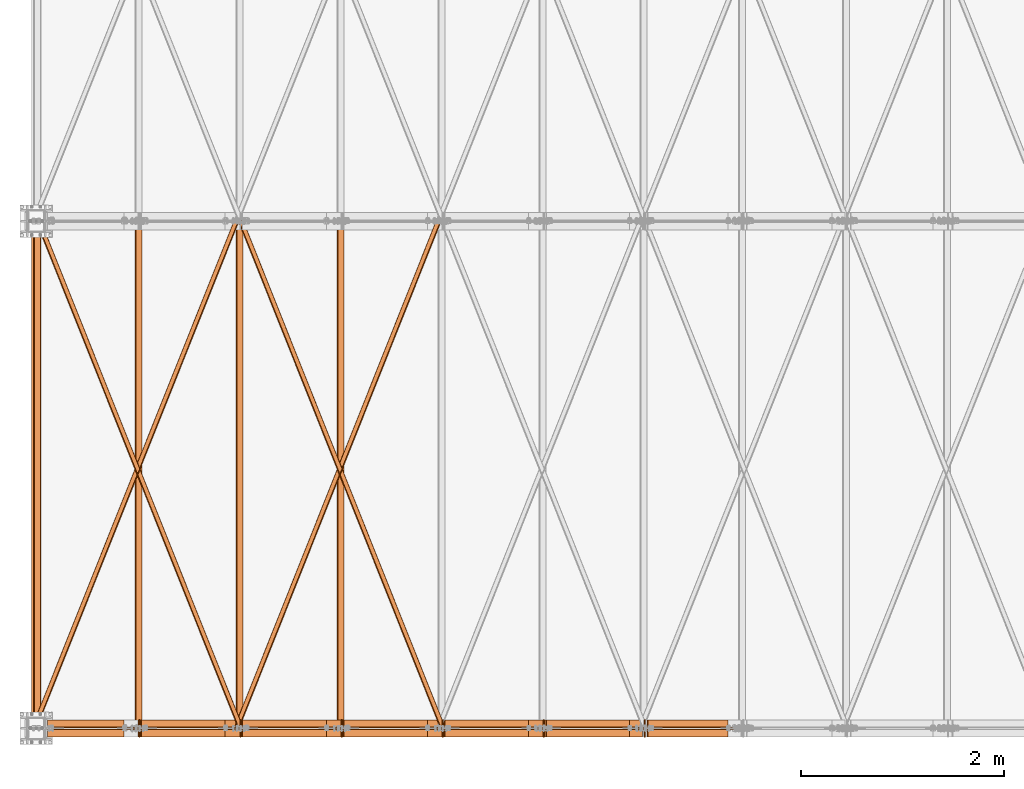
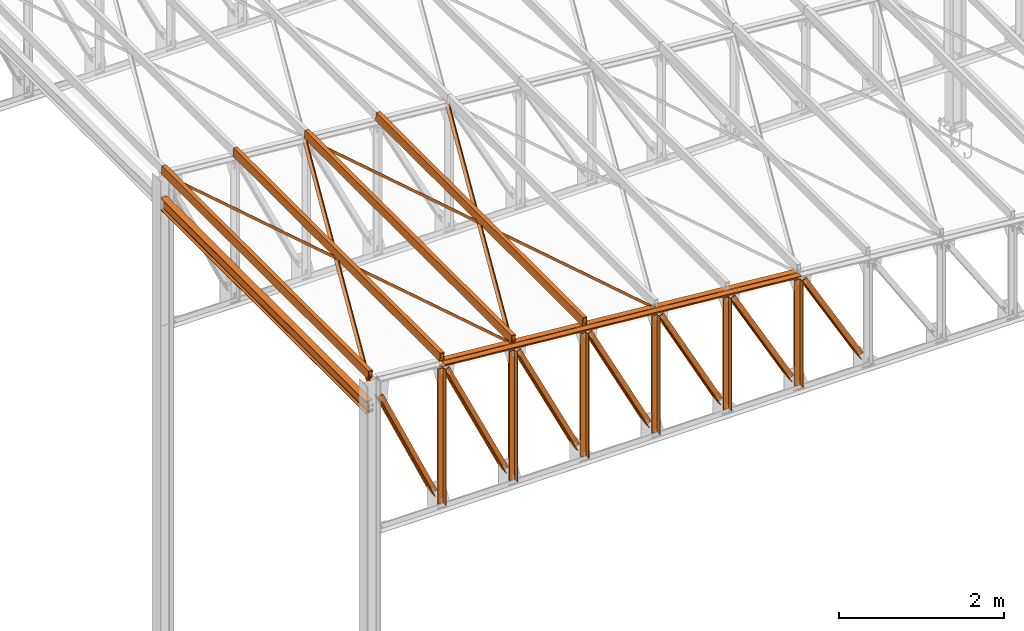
# One storey, part 230 of 251: 37 proxies.
"""IFC4 building model written with IfcOpenShell, lengths in metres."""

from ifc_helpers import new_model, si_unit, frame, frame_2d, origin_with_axes, origin_2d_with_axis, place, context, project, spatial, polyline, hollow_rectangle, i_section, l_section, outline, extrude, clip, halfspace, material, material_profile, profile_set, profile_usage, type_object, element, save


model = new_model("IFC4")

# Units and contexts
model_context = context("Model", 3, precision=1e-05, world=origin_with_axes())
ifc_project = project(units=[si_unit("LENGTHUNIT", "METRE"), si_unit("AREAUNIT", "SQUARE_METRE"), si_unit("VOLUMEUNIT", "CUBIC_METRE"), si_unit("MASSUNIT", "GRAM", prefix="KILO"), si_unit("TIMEUNIT", "SECOND"), si_unit("PLANEANGLEUNIT", "RADIAN"), si_unit("SOLIDANGLEUNIT", "STERADIAN"), si_unit("THERMODYNAMICTEMPERATUREUNIT", "DEGREE_CELSIUS")], contexts=[model_context])

# Site, building, storey
placement_1 = place(None, origin_with_axes())
site = spatial("IfcSite", under=ifc_project, at=placement_1, Name="Italia", CompositionType="ELEMENT")
building = spatial("IfcBuilding", under=site, at=placement_1, Name="Deposito", CompositionType="ELEMENT")
storey = spatial("IfcBuildingStorey", under=building, at=placement_1, Name="Storey 0", CompositionType="ELEMENT", Elevation=0.0)

# Proxies
ifc_material = material(Name="Acciaio", Category="Acciaio")
ifc_material_profile = material_profile(ifc_material, i_section(OverallWidth=0.2, OverallDepth=0.19, WebThickness=0.006, FlangeThickness=0.01, FilletRadius=0.018, at=origin_2d_with_axis()), Name="7 PILASTRO HEA200")
ifc_profile_set = profile_set([ifc_material_profile])
ifc_profile_usage_1 = profile_usage(ifc_profile_set, cardinal=1)
member_type_1 = type_object("IfcMemberType", Name="5 2L80x8", PredefinedType="MEMBER", material=ifc_profile_usage_1)
placement_2 = place(placement_1, origin_with_axes())
proxy_1_placement = place(placement_2, origin_with_axes())
element("IfcBuildingElementProxy", 1, at=proxy_1_placement, inside=storey, type_object=member_type_1, Name="170001", context=model_context, shape_type="SweptSolid", body=[
    extrude(outline(polyline([(0.0, 0.0), (-0.08, 0.0), (-0.08, 0.00800037), (-0.008, 0.00800037), (-0.008, 0.0799999), (0.0, 0.0799999), (0.0, 0.0)])), frame((12.0716, -0.005, 6.57981), z_axis=(0.496024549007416, 0.0, -0.868308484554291), x_axis=(0.0, 1.0, 0.0)), (0.0, 0.0, 1.0), 1.5955),
])
ifc_profile_usage_2 = profile_usage(ifc_profile_set, cardinal=1)
member_type_2 = type_object("IfcMemberType", Name="5 2L80x8", PredefinedType="MEMBER", material=ifc_profile_usage_2)
proxy_2_placement = place(placement_2, origin_with_axes())
element("IfcBuildingElementProxy", 2, at=proxy_2_placement, inside=storey, type_object=member_type_2, Name="170001", context=model_context, shape_type="SweptSolid", body=[
    extrude(outline(polyline([(0.0, 0.0), (0.008, 0.0), (0.008, -0.0719986), (0.08, -0.0719986), (0.08, -0.079999), (0.0, -0.079999), (0.0, 0.0)])), frame((12.1411, 0.005, 6.6195), z_axis=(0.496024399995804, 0.0, -0.868308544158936), x_axis=(0.0, 1.0, 0.0)), (0.0, 0.0, 1.0), 1.59551),
])
ifc_profile_usage_3 = profile_usage(ifc_profile_set, cardinal=2)
member_type_3 = type_object("IfcMemberType", Name="5 2L80x8", PredefinedType="MEMBER", material=ifc_profile_usage_3)
proxy_3_placement = place(placement_2, origin_with_axes())
element("IfcBuildingElementProxy", 3, at=proxy_3_placement, inside=storey, type_object=member_type_3, Name="230071", context=model_context, shape_type="SweptSolid", body=[
    extrude(outline(polyline([(0.0, 0.0), (0.08, 0.0), (0.08, -0.00800085), (0.008, -0.00800085), (0.00800001, -0.0799999), (0.0, -0.0799999), (0.0, 0.0)])), frame((7.05143, 0.005, 7.15546), z_axis=(0.996194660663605, 0.0, -0.087155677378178), x_axis=(0.0, 1.0, 0.0)), (0.0, 0.0, 1.0), 4.99498),
])
ifc_profile_usage_4 = profile_usage(ifc_profile_set, cardinal=2)
member_type_4 = type_object("IfcMemberType", Name="5 2L80x8", PredefinedType="MEMBER", material=ifc_profile_usage_4)
proxy_4_placement = place(placement_2, origin_with_axes())
element("IfcBuildingElementProxy", 4, at=proxy_4_placement, inside=storey, type_object=member_type_4, Name="230071", context=model_context, shape_type="SweptSolid", body=[
    extrude(outline(polyline([(0.0, 0.0), (-0.008, 0.0), (-0.00800001, 0.0719991), (-0.08, 0.0719991), (-0.08, 0.0799994), (0.0, 0.0799994), (0.0, 0.0)])), frame((7.04446, -0.00499999, 7.07576), z_axis=(0.99619472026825, 0.0, -0.087155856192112), x_axis=(0.0, 1.0, 0.0)), (0.0, 0.0, 1.0), 4.99498),
])
ifc_profile_usage_5 = profile_usage(ifc_profile_set, cardinal=1)
member_type_5 = type_object("IfcMemberType", Name="5 2L80x8", PredefinedType="MEMBER", material=ifc_profile_usage_5)
proxy_5_placement = place(placement_2, origin_with_axes())
element("IfcBuildingElementProxy", 5, at=proxy_5_placement, inside=storey, type_object=member_type_5, Name="6", context=model_context, shape_type="SweptSolid", body=[
    extrude(outline(polyline([(0.0, 0.0), (-0.08, 0.0), (-0.08, 0.00800037), (-0.008, 0.00800037), (-0.008, 0.0799999), (0.0, 0.0799999), (0.0, 0.0)])), frame((12.053, -0.005, 5.06753), z_axis=(0.0, 0.0, 1.0), x_axis=(0.0, 1.0, 0.0)), (0.0, 0.0, 1.0), 1.55988),
])
ifc_profile_usage_6 = profile_usage(ifc_profile_set, cardinal=1)
member_type_6 = type_object("IfcMemberType", Name="5 2L80x8", PredefinedType="MEMBER", material=ifc_profile_usage_6)
proxy_6_placement = place(placement_2, origin_with_axes())
element("IfcBuildingElementProxy", 6, at=proxy_6_placement, inside=storey, type_object=member_type_6, Name="6", context=model_context, shape_type="SweptSolid", body=[
    extrude(outline(polyline([(0.0, 0.0), (0.008, 0.0), (0.008, -0.0719995), (0.08, -0.0719995), (0.08, -0.0799999), (0.0, -0.0799999), (0.0, 0.0)])), frame((11.973, 0.005, 5.06753), z_axis=(0.0, 0.0, 1.0), x_axis=(0.0, 1.0, 0.0)), (0.0, 0.0, 1.0), 1.55988),
])
ifc_profile_usage_7 = profile_usage(ifc_profile_set, cardinal=1)
member_type_7 = type_object("IfcMemberType", Name="5 2L80x8", PredefinedType="MEMBER", material=ifc_profile_usage_7)
proxy_7_placement = place(placement_2, origin_with_axes())
element("IfcBuildingElementProxy", 7, at=proxy_7_placement, inside=storey, type_object=member_type_7, Name="180001", context=model_context, shape_type="SweptSolid", body=[
    extrude(outline(polyline([(0.0, 0.0), (-0.08, 0.0), (-0.08, 0.00799942), (-0.008, 0.00799942), (-0.008, 0.0799999), (0.0, 0.0799999), (0.0, 0.0)])), frame((11.0734, -0.005, 6.66808), z_axis=(0.487459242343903, 0.0, -0.873145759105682), x_axis=(0.0, 1.0, 0.0)), (0.0, 0.0, 1.0), 1.68149),
])
ifc_profile_usage_8 = profile_usage(ifc_profile_set, cardinal=1)
member_type_8 = type_object("IfcMemberType", Name="5 2L80x8", PredefinedType="MEMBER", material=ifc_profile_usage_8)
proxy_8_placement = place(placement_2, origin_with_axes())
element("IfcBuildingElementProxy", 8, at=proxy_8_placement, inside=storey, type_object=member_type_8, Name="180001", context=model_context, shape_type="SweptSolid", body=[
    extrude(outline(polyline([(0.0, 0.0), (0.008, 0.0), (0.008, -0.0719986), (0.08, -0.0719986), (0.08, -0.079998), (0.0, -0.079998), (0.0, 0.0)])), frame((11.1433, 0.005, 6.70707), z_axis=(0.487459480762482, 0.0, -0.873145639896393), x_axis=(0.0, 1.0, 0.0)), (0.0, 0.0, 1.0), 1.68149),
])
ifc_profile_usage_9 = profile_usage(ifc_profile_set, cardinal=1)
member_type_9 = type_object("IfcMemberType", Name="5 2L80x8", PredefinedType="MEMBER", material=ifc_profile_usage_9)
proxy_9_placement = place(placement_2, origin_with_axes())
element("IfcBuildingElementProxy", 9, at=proxy_9_placement, inside=storey, type_object=member_type_9, Name="5", context=model_context, shape_type="SweptSolid", body=[
    extrude(outline(polyline([(0.0, 0.0), (-0.08, 0.0), (-0.08, 0.00800037), (-0.008, 0.00800037), (-0.008, 0.0799999), (0.0, 0.0799999), (0.0, 0.0)])), frame((11.0568, -0.005, 5.06753), z_axis=(0.0, 0.0, 1.0), x_axis=(0.0, 1.0, 0.0)), (0.0, 0.0, 1.0), 1.64711),
])
ifc_profile_usage_10 = profile_usage(ifc_profile_set, cardinal=1)
member_type_10 = type_object("IfcMemberType", Name="5 2L80x8", PredefinedType="MEMBER", material=ifc_profile_usage_10)
proxy_10_placement = place(placement_2, origin_with_axes())
element("IfcBuildingElementProxy", 10, at=proxy_10_placement, inside=storey, type_object=member_type_10, Name="5", context=model_context, shape_type="SweptSolid", body=[
    extrude(outline(polyline([(0.0, 0.0), (0.008, 0.0), (0.008, -0.0719995), (0.08, -0.0719995), (0.08, -0.0799999), (0.0, -0.0799999), (0.0, 0.0)])), frame((10.9768, 0.005, 5.06753), z_axis=(0.0, 0.0, 1.0), x_axis=(0.0, 1.0, 0.0)), (0.0, 0.0, 1.0), 1.64711),
])
ifc_profile_usage_11 = profile_usage(ifc_profile_set, cardinal=1)
member_type_11 = type_object("IfcMemberType", Name="5 2L80x8", PredefinedType="MEMBER", material=ifc_profile_usage_11)
proxy_11_placement = place(placement_2, origin_with_axes())
element("IfcBuildingElementProxy", 11, at=proxy_11_placement, inside=storey, type_object=member_type_11, Name="190001", context=model_context, shape_type="SweptSolid", body=[
    extrude(outline(polyline([(0.0, 0.0), (-0.08, 0.0), (-0.08, 0.00799942), (-0.008, 0.00799942), (-0.008, 0.0799999), (0.0, 0.0799999), (0.0, 0.0)])), frame((10.0736, -0.005, 6.75689), z_axis=(0.469864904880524, 0.0, -0.882738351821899), x_axis=(0.0, 1.0, 0.0)), (0.0, 0.0, 1.0), 1.75054),
])
ifc_profile_usage_12 = profile_usage(ifc_profile_set, cardinal=1)
member_type_12 = type_object("IfcMemberType", Name="5 2L80x8", PredefinedType="MEMBER", material=ifc_profile_usage_12)
proxy_12_placement = place(placement_2, origin_with_axes())
element("IfcBuildingElementProxy", 12, at=proxy_12_placement, inside=storey, type_object=member_type_12, Name="190001", context=model_context, shape_type="SweptSolid", body=[
    extrude(outline(polyline([(0.0, 0.0), (0.008, 0.0), (0.008, -0.0720005), (0.08, -0.0720005), (0.08, -0.0799999), (0.0, -0.0799999), (0.0, 0.0)])), frame((10.1442, 0.005, 6.79448), z_axis=(0.469864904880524, 0.0, -0.882738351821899), x_axis=(0.0, 1.0, 0.0)), (0.0, 0.0, 1.0), 1.75054),
])
ifc_profile_usage_13 = profile_usage(ifc_profile_set, cardinal=1)
member_type_13 = type_object("IfcMemberType", Name="5 2L80x8", PredefinedType="MEMBER", material=ifc_profile_usage_13)
proxy_13_placement = place(placement_2, origin_with_axes())
element("IfcBuildingElementProxy", 13, at=proxy_13_placement, inside=storey, type_object=member_type_13, Name="4", context=model_context, shape_type="SweptSolid", body=[
    extrude(outline(polyline([(0.0, 0.0), (-0.08, 0.0), (-0.08, 0.00800037), (-0.008, 0.00800037), (-0.008, 0.0799999), (0.0, 0.0799999), (0.0, 0.0)])), frame((10.0606, -0.005, 5.06753), z_axis=(0.0, 0.0, 1.0), x_axis=(0.0, 1.0, 0.0)), (0.0, 0.0, 1.0), 1.73426),
])
ifc_profile_usage_14 = profile_usage(ifc_profile_set, cardinal=1)
member_type_14 = type_object("IfcMemberType", Name="5 2L80x8", PredefinedType="MEMBER", material=ifc_profile_usage_14)
proxy_14_placement = place(placement_2, origin_with_axes())
element("IfcBuildingElementProxy", 14, at=proxy_14_placement, inside=storey, type_object=member_type_14, Name="4", context=model_context, shape_type="SweptSolid", body=[
    extrude(outline(polyline([(0.0, 0.0), (0.008, 0.0), (0.008, -0.0719995), (0.08, -0.0719995), (0.08, -0.0799999), (0.0, -0.0799999), (0.0, 0.0)])), frame((9.98057, 0.005, 5.06753), z_axis=(0.0, 0.0, 1.0), x_axis=(0.0, 1.0, 0.0)), (0.0, 0.0, 1.0), 1.73426),
])
ifc_profile_usage_15 = profile_usage(ifc_profile_set, cardinal=1)
member_type_15 = type_object("IfcMemberType", Name="5 2L80x8", PredefinedType="MEMBER", material=ifc_profile_usage_15)
proxy_15_placement = place(placement_2, origin_with_axes())
element("IfcBuildingElementProxy", 15, at=proxy_15_placement, inside=storey, type_object=member_type_15, Name="200001", context=model_context, shape_type="SweptSolid", body=[
    extrude(outline(polyline([(0.0, 0.0), (-0.08, 0.0), (-0.08, 0.00800133), (-0.008, 0.00800133), (-0.008, 0.0799999), (0.0, 0.0799999), (0.0, 0.0)])), frame((9.07443, -0.005, 6.84501), z_axis=(0.453332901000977, 0.0, -0.891341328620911), x_axis=(0.0, 1.0, 0.0)), (0.0, 0.0, 1.0), 1.81939),
])
ifc_profile_usage_16 = profile_usage(ifc_profile_set, cardinal=1)
member_type_16 = type_object("IfcMemberType", Name="5 2L80x8", PredefinedType="MEMBER", material=ifc_profile_usage_16)
proxy_16_placement = place(placement_2, origin_with_axes())
element("IfcBuildingElementProxy", 16, at=proxy_16_placement, inside=storey, type_object=member_type_16, Name="200001", context=model_context, shape_type="SweptSolid", body=[
    extrude(outline(polyline([(0.0, 0.0), (0.008, 0.0), (0.008, -0.0719986), (0.08, -0.0719986), (0.08, -0.079999), (0.0, -0.079999), (0.0, 0.0)])), frame((9.14573, 0.005, 6.88128), z_axis=(0.453332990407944, 0.0, -0.891341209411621), x_axis=(0.0, 1.0, 0.0)), (0.0, 0.0, 1.0), 1.81938),
])
ifc_profile_usage_17 = profile_usage(ifc_profile_set, cardinal=1)
member_type_17 = type_object("IfcMemberType", Name="5 2L80x8", PredefinedType="MEMBER", material=ifc_profile_usage_17)
proxy_17_placement = place(placement_2, origin_with_axes())
element("IfcBuildingElementProxy", 17, at=proxy_17_placement, inside=storey, type_object=member_type_17, Name="3", context=model_context, shape_type="SweptSolid", body=[
    extrude(outline(polyline([(0.0, 0.0), (-0.08, 0.0), (-0.08, 0.00800037), (-0.008, 0.00800037), (-0.008, 0.0799999), (0.0, 0.0799999), (0.0, 0.0)])), frame((9.06438, -0.005, 5.06753), z_axis=(0.0, 0.0, 1.0), x_axis=(0.0, 1.0, 0.0)), (0.0, 0.0, 1.0), 1.82142),
])
ifc_profile_usage_18 = profile_usage(ifc_profile_set, cardinal=1)
member_type_18 = type_object("IfcMemberType", Name="5 2L80x8", PredefinedType="MEMBER", material=ifc_profile_usage_18)
proxy_18_placement = place(placement_2, origin_with_axes())
element("IfcBuildingElementProxy", 18, at=proxy_18_placement, inside=storey, type_object=member_type_18, Name="3", context=model_context, shape_type="SweptSolid", body=[
    extrude(outline(polyline([(0.0, 0.0), (0.008, 0.0), (0.008, -0.0719995), (0.08, -0.0719995), (0.08, -0.0799999), (0.0, -0.0799999), (0.0, 0.0)])), frame((8.98438, 0.005, 5.06753), z_axis=(0.0, 0.0, 1.0), x_axis=(0.0, 1.0, 0.0)), (0.0, 0.0, 1.0), 1.82142),
])
ifc_profile_usage_19 = profile_usage(ifc_profile_set, cardinal=1)
member_type_19 = type_object("IfcMemberType", Name="5 2L80x8", PredefinedType="MEMBER", material=ifc_profile_usage_19)
proxy_19_placement = place(placement_2, origin_with_axes())
element("IfcBuildingElementProxy", 19, at=proxy_19_placement, inside=storey, type_object=member_type_19, Name="210001", context=model_context, shape_type="SweptSolid", body=[
    extrude(outline(polyline([(0.0, 0.0), (-0.08, 0.0), (-0.08, 0.00799942), (-0.008, 0.00799942), (-0.008, 0.0799999), (0.0, 0.0799999), (0.0, 0.0)])), frame((8.07823, -0.005, 6.92755), z_axis=(0.437787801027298, 0.0, -0.89907830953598), x_axis=(0.0, 1.0, 0.0)), (0.0, 0.0, 1.0), 1.88258),
])
ifc_profile_usage_20 = profile_usage(ifc_profile_set, cardinal=1)
member_type_20 = type_object("IfcMemberType", Name="5 2L80x8", PredefinedType="MEMBER", material=ifc_profile_usage_20)
proxy_20_placement = place(placement_2, origin_with_axes())
element("IfcBuildingElementProxy", 20, at=proxy_20_placement, inside=storey, type_object=member_type_20, Name="210001", context=model_context, shape_type="SweptSolid", body=[
    extrude(outline(polyline([(0.0, 0.0), (0.008, 0.0), (0.008, -0.0719995), (0.08, -0.0719995), (0.08, -0.0799999), (0.0, -0.0799999), (0.0, 0.0)])), frame((8.15016, 0.005, 6.96258), z_axis=(0.437788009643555, 0.0, -0.899078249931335), x_axis=(0.0, 1.0, 0.0)), (0.0, 0.0, 1.0), 1.88258),
])
ifc_profile_usage_21 = profile_usage(ifc_profile_set, cardinal=1)
member_type_21 = type_object("IfcMemberType", Name="5 2L80x8", PredefinedType="MEMBER", material=ifc_profile_usage_21)
proxy_21_placement = place(placement_2, origin_with_axes())
element("IfcBuildingElementProxy", 21, at=proxy_21_placement, inside=storey, type_object=member_type_21, Name="2", context=model_context, shape_type="SweptSolid", body=[
    extrude(outline(polyline([(0.0, 0.0), (-0.08, 0.0), (-0.08, 0.00800037), (-0.008, 0.00800037), (-0.008, 0.0800004), (0.0, 0.0800004), (0.0, 0.0)])), frame((8.06818, -0.005, 5.06753), z_axis=(0.0, 0.0, 1.0), x_axis=(0.0, 1.0, 0.0)), (0.0, 0.0, 1.0), 1.90857),
])
ifc_profile_usage_22 = profile_usage(ifc_profile_set, cardinal=1)
member_type_22 = type_object("IfcMemberType", Name="5 2L80x8", PredefinedType="MEMBER", material=ifc_profile_usage_22)
proxy_22_placement = place(placement_2, origin_with_axes())
element("IfcBuildingElementProxy", 22, at=proxy_22_placement, inside=storey, type_object=member_type_22, Name="2", context=model_context, shape_type="SweptSolid", body=[
    extrude(outline(polyline([(0.0, 0.0), (0.008, 0.0), (0.008, -0.072), (0.08, -0.072), (0.08, -0.0800004), (0.0, -0.0800004), (0.0, 0.0)])), frame((7.98818, 0.005, 5.06753), z_axis=(0.0, 0.0, 1.0), x_axis=(0.0, 1.0, 0.0)), (0.0, 0.0, 1.0), 1.90857),
])
ifc_profile_usage_23 = profile_usage(ifc_profile_set, cardinal=1)
member_type_23 = type_object("IfcMemberType", Name="5 2L80x8", PredefinedType="MEMBER", material=ifc_profile_usage_23)
proxy_23_placement = place(placement_2, origin_with_axes())
element("IfcBuildingElementProxy", 23, at=proxy_23_placement, inside=storey, type_object=member_type_23, Name="220001", context=model_context, shape_type="SweptSolid", body=[
    extrude(outline(polyline([(0.0, 0.0), (-0.08, 0.0), (-0.08, 0.00800037), (-0.008, 0.00800037), (-0.008, 0.0800009), (0.0, 0.0800009), (0.0, 0.0)])), frame((7.08204, -0.005, 7.01008), z_axis=(0.423158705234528, 0.0, -0.906055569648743), x_axis=(0.0, 1.0, 0.0)), (0.0, 0.0, 1.0), 1.94634),
])
ifc_profile_usage_24 = profile_usage(ifc_profile_set, cardinal=1)
member_type_24 = type_object("IfcMemberType", Name="5 2L80x8", PredefinedType="MEMBER", material=ifc_profile_usage_24)
proxy_24_placement = place(placement_2, origin_with_axes())
element("IfcBuildingElementProxy", 24, at=proxy_24_placement, inside=storey, type_object=member_type_24, Name="220001", context=model_context, shape_type="SweptSolid", body=[
    extrude(outline(polyline([(0.0, 0.0), (0.008, 0.0), (0.008, -0.0720005), (0.08, -0.0720005), (0.08, -0.0800009), (0.0, -0.0800009), (0.0, 0.0)])), frame((7.15452, 0.005, 7.04394), z_axis=(0.423158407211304, 0.0, -0.906055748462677), x_axis=(0.0, 1.0, 0.0)), (0.0, 0.0, 1.0), 1.94634),
])
ifc_profile_usage_25 = profile_usage(ifc_profile_set, cardinal=1)
member_type_25 = type_object("IfcMemberType", Name="5 2L80x8", PredefinedType="MEMBER", material=ifc_profile_usage_25)
proxy_25_placement = place(placement_2, origin_with_axes())
element("IfcBuildingElementProxy", 25, at=proxy_25_placement, inside=storey, type_object=member_type_25, Name="1", context=model_context, shape_type="SweptSolid", body=[
    extrude(outline(polyline([(0.0, 0.0), (-0.08, 0.0), (-0.08, 0.0079999), (-0.008, 0.0079999), (-0.008, 0.0799999), (0.0, 0.0799999), (0.0, 0.0)])), frame((7.07199, -0.005, 5.06753), z_axis=(0.0, 0.0, 1.0), x_axis=(0.0, 1.0, 0.0)), (0.0, 0.0, 1.0), 1.99573),
])
ifc_profile_usage_26 = profile_usage(ifc_profile_set, cardinal=1)
member_type_26 = type_object("IfcMemberType", Name="5 2L80x8", PredefinedType="MEMBER", material=ifc_profile_usage_26)
proxy_26_placement = place(placement_2, origin_with_axes())
element("IfcBuildingElementProxy", 26, at=proxy_26_placement, inside=storey, type_object=member_type_26, Name="1", context=model_context, shape_type="SweptSolid", body=[
    extrude(outline(polyline([(0.0, 0.0), (0.008, 0.0), (0.008, -0.072), (0.08, -0.072), (0.08, -0.0799999), (0.0, -0.0799999), (0.0, 0.0)])), frame((6.99199, 0.005, 5.06753), z_axis=(0.0, 0.0, 1.0), x_axis=(0.0, 1.0, 0.0)), (0.0, 0.0, 1.0), 1.99573),
])
ifc_profile_usage_27 = profile_usage(ifc_profile_set, cardinal=1)
member_type_27 = type_object("IfcMemberType", Name="5 2L80x8", PredefinedType="MEMBER", material=ifc_profile_usage_27)
proxy_27_placement = place(placement_2, origin_with_axes())
element("IfcBuildingElementProxy", 27, at=proxy_27_placement, inside=storey, type_object=member_type_27, Name="230001", context=model_context, shape_type="SweptSolid", body=[
    extrude(outline(polyline([(0.0, 0.0), (-0.08, 0.0), (-0.08, 0.00799942), (-0.008, 0.00799942), (-0.008, 0.079999), (0.0, 0.079999), (0.0, 0.0)])), frame((6.15505, -0.005, 6.93198), z_axis=(0.410496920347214, 0.0, -0.911861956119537), x_axis=(0.0, 1.0, 0.0)), (0.0, 0.0, 1.0), 1.83665),
])
ifc_profile_usage_28 = profile_usage(ifc_profile_set, cardinal=1)
member_type_28 = type_object("IfcMemberType", Name="5 2L80x8", PredefinedType="MEMBER", material=ifc_profile_usage_28)
proxy_28_placement = place(placement_2, origin_with_axes())
element("IfcBuildingElementProxy", 28, at=proxy_28_placement, inside=storey, type_object=member_type_28, Name="230001", context=model_context, shape_type="SweptSolid", body=[
    extrude(outline(polyline([(0.0, 0.0), (0.008, 0.0), (0.008, -0.0719995), (0.08, -0.0719995), (0.08, -0.0799999), (0.0, -0.0799999), (0.0, 0.0)])), frame((6.228, 0.005, 6.96482), z_axis=(0.410497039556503, 0.0, -0.911861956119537), x_axis=(0.0, 1.0, 0.0)), (0.0, 0.0, 1.0), 1.83665),
])
ifc_profile_usage_29 = profile_usage(ifc_profile_set, cardinal=8)
member_type_29 = type_object("IfcMemberType", Name="1 RHS120x60x8", PredefinedType="MEMBER", material=ifc_profile_usage_29)
proxy_29_placement = place(placement_2, origin_with_axes())
element("IfcBuildingElementProxy", 29, at=proxy_29_placement, inside=storey, type_object=member_type_29, Name="210021", context=model_context, shape_type="SweptSolid", body=[
    extrude(hollow_rectangle(XDim=0.06, YDim=0.12, WallThickness=0.008, at=frame_2d((0.0, 0.0), x_axis=(0.996194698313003, 0.087155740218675))), frame((8.05286, 0.0, 7.1281), z_axis=(0.0, 1.0, 0.0), x_axis=(-1.0, 0.0, 0.0)), (0.0, 0.0, 1.0), 5.0),
])
ifc_profile_usage_30 = profile_usage(ifc_profile_set, cardinal=8)
member_type_30 = type_object("IfcMemberType", Name="1 RHS120x60x8", PredefinedType="MEMBER", material=ifc_profile_usage_30)
proxy_30_placement = place(placement_2, origin_with_axes())
element("IfcBuildingElementProxy", 30, at=proxy_30_placement, inside=storey, type_object=member_type_30, Name="230019", context=model_context, shape_type="SweptSolid", body=[
    extrude(hollow_rectangle(XDim=0.06, YDim=0.12, WallThickness=0.008, at=frame_2d((0.0, 0.0), x_axis=(0.996194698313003, 0.087155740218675))), frame((6.05719, 0.0, 7.30242), z_axis=(0.0, 1.0, 0.0), x_axis=(-1.0, 0.0, 0.0)), (0.0, 0.0, 1.0), 5.0),
])
ifc_profile_usage_31 = profile_usage(ifc_profile_set, cardinal=8)
member_type_31 = type_object("IfcMemberType", Name="1 RHS120x60x8", PredefinedType="MEMBER", material=ifc_profile_usage_31)
proxy_31_placement = place(placement_2, origin_with_axes())
element("IfcBuildingElementProxy", 31, at=proxy_31_placement, inside=storey, type_object=member_type_31, Name="220020", context=model_context, shape_type="SweptSolid", body=[
    extrude(hollow_rectangle(XDim=0.06, YDim=0.12, WallThickness=0.008, at=frame_2d((0.0, 0.0), x_axis=(0.996194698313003, 0.087155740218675))), frame((7.05666, 0.0, 7.21526), z_axis=(0.0, 1.0, 0.0), x_axis=(-1.0, 0.0, 0.0)), (0.0, 0.0, 1.0), 5.0),
])
ifc_profile_usage_32 = profile_usage(ifc_profile_set, cardinal=8)
member_type_32 = type_object("IfcMemberType", Name="1 RHS120x60x8", PredefinedType="MEMBER", material=ifc_profile_usage_32)
proxy_32_placement = place(placement_2, origin_with_axes())
element("IfcBuildingElementProxy", 32, at=proxy_32_placement, inside=storey, type_object=member_type_32, Name="200023", context=model_context, shape_type="SweptSolid", body=[
    extrude(hollow_rectangle(XDim=0.06, YDim=0.12, WallThickness=0.008, at=frame_2d((0.0, 0.0), x_axis=(0.996194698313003, 0.087155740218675))), frame((9.04905, 0.0, 7.04095), z_axis=(0.0, 1.0, 0.0), x_axis=(-1.0, 0.0, 0.0)), (0.0, 0.0, 1.0), 5.0),
])
ifc_profile_usage_33 = profile_usage(ifc_profile_set, cardinal=5)
member_type_33 = type_object("IfcMemberType", Name="9 ARCARECCI IPE180", PredefinedType="MEMBER", material=ifc_profile_usage_33)
proxy_33_placement = place(placement_2, frame((6.049999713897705, -2.5, 6.820181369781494), z_axis=(0.0, 0.0, 1.0), x_axis=(1.0, 0.0, 0.0)))
element("IfcBuildingElementProxy", 33, at=proxy_33_placement, inside=storey, type_object=member_type_33, Name="280019", context=model_context, shape_type="Clipping", body=[
    clip(clip(extrude(i_section(OverallWidth=0.091, OverallDepth=0.18, WebThickness=0.0053, FlangeThickness=0.008, FilletRadius=0.009, at=origin_2d_with_axis()), frame((0.0, 0.0, 0.0), z_axis=(0.0, 1.0, 0.0), x_axis=(-1.0, 0.0, 0.0)), (0.0, 0.0, 1.0), 10.0), halfspace(frame((0.0, 2.518, 0.0), z_axis=(0.0, -1.0, 0.0), x_axis=(1.0, 0.0, 0.0)), False)), halfspace(frame((0.0, 7.482, 0.0), z_axis=(0.0, -1.0, 0.0), x_axis=(1.0, 0.0, 0.0)), True)),
])
ifc_profile_usage_34 = profile_usage(ifc_profile_set, cardinal=5)
member_type_34 = type_object("IfcMemberType", Name="11 CONTROVENTI COPERTURA L50x5", PredefinedType="MEMBER", material=ifc_profile_usage_34)
proxy_34_placement = place(placement_2, origin_with_axes())
element("IfcBuildingElementProxy", 34, at=proxy_34_placement, inside=storey, type_object=member_type_34, Name="210056", context=model_context, shape_type="SweptSolid", body=[
    extrude(l_section(Depth=0.05, Width=0.05, Thickness=0.005, FilletRadius=0.007, EdgeRadius=0.0035, at=origin_2d_with_axis()), frame((8.02732, 0.00732825, 7.06586), z_axis=(0.369977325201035, 0.928476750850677, -0.032368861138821), x_axis=(-0.928963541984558, 0.370171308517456, 0.0)), (0.0, 0.0, 1.0), 5.38516),
])
ifc_profile_usage_35 = profile_usage(ifc_profile_set, cardinal=5)
member_type_35 = type_object("IfcMemberType", Name="11 CONTROVENTI COPERTURA L50x5", PredefinedType="MEMBER", material=ifc_profile_usage_35)
proxy_35_placement = place(placement_2, origin_with_axes())
element("IfcBuildingElementProxy", 35, at=proxy_35_placement, inside=storey, type_object=member_type_35, Name="250043", context=model_context, shape_type="SweptSolid", body=[
    extrude(l_section(Depth=0.05, Width=0.05, Thickness=0.005, FilletRadius=0.007, EdgeRadius=0.0035, at=origin_2d_with_axis()), frame((6.06855, 5.00681, 7.24017), z_axis=(0.37050199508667, -0.92826771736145, -0.032361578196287), x_axis=(0.928754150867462, 0.370696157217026, 0.0)), (0.0, 0.0, 1.0), 5.38638),
])
ifc_profile_usage_36 = profile_usage(ifc_profile_set, cardinal=5)
member_type_36 = type_object("IfcMemberType", Name="11 CONTROVENTI COPERTURA L50x5", PredefinedType="MEMBER", material=ifc_profile_usage_36)
proxy_36_placement = place(placement_2, origin_with_axes())
element("IfcBuildingElementProxy", 36, at=proxy_36_placement, inside=storey, type_object=member_type_36, Name="250046", context=model_context, shape_type="SweptSolid", body=[
    extrude(l_section(Depth=0.05, Width=0.05, Thickness=0.005, FilletRadius=0.007, EdgeRadius=0.0035, at=origin_2d_with_axis()), frame((8.06421, 5.0068, 7.06586), z_axis=(0.369977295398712, -0.928476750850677, -0.03236885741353), x_axis=(0.928963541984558, 0.370171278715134, 0.0)), (0.0, 0.0, 1.0), 5.38517),
])
ifc_profile_usage_37 = profile_usage(ifc_profile_set, cardinal=5)
member_type_37 = type_object("IfcMemberType", Name="11 CONTROVENTI COPERTURA L50x5", PredefinedType="MEMBER", material=ifc_profile_usage_37)
proxy_37_placement = place(placement_2, origin_with_axes())
element("IfcBuildingElementProxy", 37, at=proxy_37_placement, inside=storey, type_object=member_type_37, Name="230047", context=model_context, shape_type="SweptSolid", body=[
    extrude(l_section(Depth=0.05, Width=0.05, Thickness=0.005, FilletRadius=0.007, EdgeRadius=0.0035, at=origin_2d_with_axis()), frame((6.03166, 0.00733878, 7.24017), z_axis=(0.37050199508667, 0.92826771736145, -0.032361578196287), x_axis=(-0.928754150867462, 0.370696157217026, 0.0)), (0.0, 0.0, 1.0), 5.38638),
])

save(model, "model.ifc")
